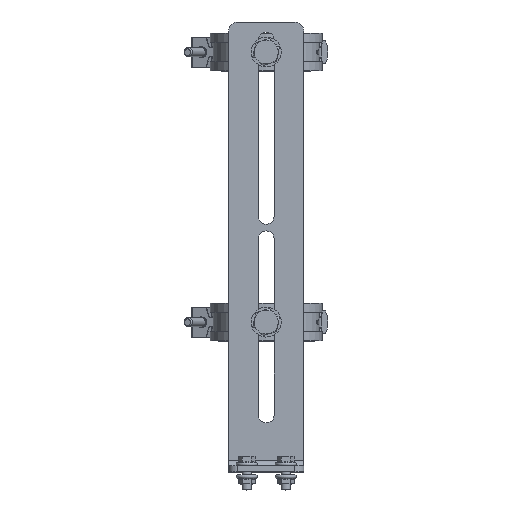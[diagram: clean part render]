
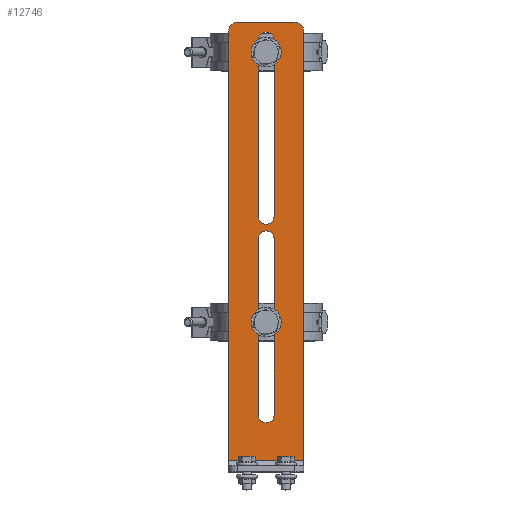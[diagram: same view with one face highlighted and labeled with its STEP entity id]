
A CAD part, top view. The second image highlights one B-rep face of the part: STEP entity #12746.
In plain terms, the highlighted planar face has unit normal (0, 0, 1).
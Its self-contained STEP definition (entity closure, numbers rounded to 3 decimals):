
#452=FACE_BOUND('',#1624,.T.);
#453=FACE_BOUND('',#1625,.T.);
#511=PLANE('',#13513);
#911=FACE_OUTER_BOUND('',#1623,.T.);
#1623=EDGE_LOOP('',(#8216,#8217,#8218,#8219,#8220,#8221));
#1624=EDGE_LOOP('',(#8222,#8223,#8224,#8225));
#1625=EDGE_LOOP('',(#8226,#8227,#8228,#8229));
#2355=LINE('',#18458,#3361);
#2365=LINE('',#18490,#3371);
#2382=LINE('',#18539,#3388);
#2383=LINE('',#18541,#3389);
#2384=LINE('',#18545,#3390);
#2388=LINE('',#18554,#3394);
#2392=LINE('',#18566,#3398);
#2395=LINE('',#18573,#3401);
#3361=VECTOR('',#14819,10.);
#3371=VECTOR('',#14847,10.);
#3388=VECTOR('',#14908,10.);
#3389=VECTOR('',#14911,10.);
#3390=VECTOR('',#14914,10.);
#3394=VECTOR('',#14924,10.);
#3398=VECTOR('',#14938,10.);
#3401=VECTOR('',#14947,10.);
#4356=CIRCLE('',#13466,6.);
#4363=CIRCLE('',#13476,6.);
#4372=CIRCLE('',#13503,5.25);
#4373=CIRCLE('',#13506,5.25);
#4374=CIRCLE('',#13508,5.25);
#4375=CIRCLE('',#13511,5.25);
#4987=VERTEX_POINT('',#18445);
#4988=VERTEX_POINT('',#18446);
#4992=VERTEX_POINT('',#18456);
#5004=VERTEX_POINT('',#18484);
#5005=VERTEX_POINT('',#18488);
#5015=VERTEX_POINT('',#18534);
#5016=VERTEX_POINT('',#18543);
#5017=VERTEX_POINT('',#18544);
#5018=VERTEX_POINT('',#18549);
#5019=VERTEX_POINT('',#18553);
#5020=VERTEX_POINT('',#18559);
#5021=VERTEX_POINT('',#18560);
#5022=VERTEX_POINT('',#18565);
#5023=VERTEX_POINT('',#18569);
#6187=EDGE_CURVE('',#4987,#4988,#4356,.T.);
#6193=EDGE_CURVE('',#4992,#4987,#2355,.T.);
#6206=EDGE_CURVE('',#5004,#4992,#4363,.T.);
#6209=EDGE_CURVE('',#5005,#5004,#2365,.T.);
#6234=EDGE_CURVE('',#5005,#5015,#2382,.T.);
#6235=EDGE_CURVE('',#4988,#5015,#2383,.T.);
#6236=EDGE_CURVE('',#5016,#5017,#2384,.T.);
#6239=EDGE_CURVE('',#5017,#5018,#4372,.T.);
#6241=EDGE_CURVE('',#5018,#5019,#2388,.T.);
#6243=EDGE_CURVE('',#5019,#5016,#4373,.T.);
#6244=EDGE_CURVE('',#5020,#5021,#4374,.T.);
#6247=EDGE_CURVE('',#5021,#5022,#2392,.T.);
#6249=EDGE_CURVE('',#5022,#5023,#4375,.T.);
#6251=EDGE_CURVE('',#5023,#5020,#2395,.T.);
#8216=ORIENTED_EDGE('',*,*,#6187,.F.);
#8217=ORIENTED_EDGE('',*,*,#6193,.F.);
#8218=ORIENTED_EDGE('',*,*,#6206,.F.);
#8219=ORIENTED_EDGE('',*,*,#6209,.F.);
#8220=ORIENTED_EDGE('',*,*,#6234,.T.);
#8221=ORIENTED_EDGE('',*,*,#6235,.F.);
#8222=ORIENTED_EDGE('',*,*,#6236,.T.);
#8223=ORIENTED_EDGE('',*,*,#6239,.T.);
#8224=ORIENTED_EDGE('',*,*,#6241,.T.);
#8225=ORIENTED_EDGE('',*,*,#6243,.T.);
#8226=ORIENTED_EDGE('',*,*,#6244,.T.);
#8227=ORIENTED_EDGE('',*,*,#6247,.T.);
#8228=ORIENTED_EDGE('',*,*,#6249,.T.);
#8229=ORIENTED_EDGE('',*,*,#6251,.T.);
#12746=ADVANCED_FACE('',(#911,#452,#453),#511,.T.);
#13466=AXIS2_PLACEMENT_3D('',#18447,#14809,#14810);
#13476=AXIS2_PLACEMENT_3D('',#18485,#14841,#14842);
#13503=AXIS2_PLACEMENT_3D('',#18550,#14919,#14920);
#13506=AXIS2_PLACEMENT_3D('',#18557,#14928,#14929);
#13508=AXIS2_PLACEMENT_3D('',#18561,#14932,#14933);
#13511=AXIS2_PLACEMENT_3D('',#18570,#14942,#14943);
#13513=AXIS2_PLACEMENT_3D('',#18574,#14948,#14949);
#14809=DIRECTION('center_axis',(0.,0.,-1.));
#14810=DIRECTION('ref_axis',(0.707,0.707,0.));
#14819=DIRECTION('',(1.,0.,0.));
#14841=DIRECTION('center_axis',(0.,0.,-1.));
#14842=DIRECTION('ref_axis',(-0.707,0.707,0.));
#14847=DIRECTION('',(0.,1.,0.));
#14908=DIRECTION('',(1.,0.,0.));
#14911=DIRECTION('',(0.,-1.,0.));
#14914=DIRECTION('',(0.,1.,0.));
#14919=DIRECTION('center_axis',(0.,0.,-1.));
#14920=DIRECTION('ref_axis',(1.,0.,0.));
#14924=DIRECTION('',(0.,-1.,0.));
#14928=DIRECTION('center_axis',(0.,0.,-1.));
#14929=DIRECTION('ref_axis',(-1.,0.,0.));
#14932=DIRECTION('center_axis',(0.,0.,-1.));
#14933=DIRECTION('ref_axis',(1.,0.,0.));
#14938=DIRECTION('',(0.,-1.,0.));
#14942=DIRECTION('center_axis',(0.,0.,-1.));
#14943=DIRECTION('ref_axis',(-1.,0.,0.));
#14947=DIRECTION('',(0.,1.,0.));
#14948=DIRECTION('center_axis',(0.,0.,1.));
#14949=DIRECTION('ref_axis',(1.,0.,0.));
#18445=CARTESIAN_POINT('',(19.,300.,4.));
#18446=CARTESIAN_POINT('',(25.,294.,4.));
#18447=CARTESIAN_POINT('Origin',(19.,294.,4.));
#18456=CARTESIAN_POINT('',(-19.,300.,4.));
#18458=CARTESIAN_POINT('',(-25.,300.,4.));
#18484=CARTESIAN_POINT('',(-25.,294.,4.));
#18485=CARTESIAN_POINT('Origin',(-19.,294.,4.));
#18488=CARTESIAN_POINT('',(-25.,8.,4.));
#18490=CARTESIAN_POINT('',(-25.,0.,4.));
#18534=CARTESIAN_POINT('',(25.,8.,4.));
#18539=CARTESIAN_POINT('',(12.5,8.,4.));
#18541=CARTESIAN_POINT('',(25.,300.,4.));
#18543=CARTESIAN_POINT('',(-5.25,38.,4.));
#18544=CARTESIAN_POINT('',(-5.25,155.5,4.));
#18545=CARTESIAN_POINT('',(-5.25,94.,4.));
#18549=CARTESIAN_POINT('',(5.25,155.5,4.));
#18550=CARTESIAN_POINT('Origin',(0.,155.5,4.));
#18553=CARTESIAN_POINT('',(5.25,38.,4.));
#18554=CARTESIAN_POINT('',(5.25,152.75,4.));
#18557=CARTESIAN_POINT('Origin',(0.,38.,4.));
#18559=CARTESIAN_POINT('',(-5.25,288.,4.));
#18560=CARTESIAN_POINT('',(5.25,288.,4.));
#18561=CARTESIAN_POINT('Origin',(0.,288.,4.));
#18565=CARTESIAN_POINT('',(5.25,170.5,4.));
#18566=CARTESIAN_POINT('',(5.25,219.,4.));
#18569=CARTESIAN_POINT('',(-5.25,170.5,4.));
#18570=CARTESIAN_POINT('Origin',(0.,170.5,4.));
#18573=CARTESIAN_POINT('',(-5.25,160.25,4.));
#18574=CARTESIAN_POINT('Origin',(0.,150.,4.));
